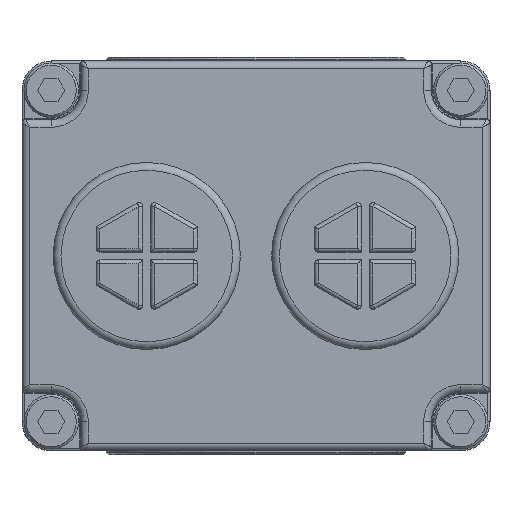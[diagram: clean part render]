
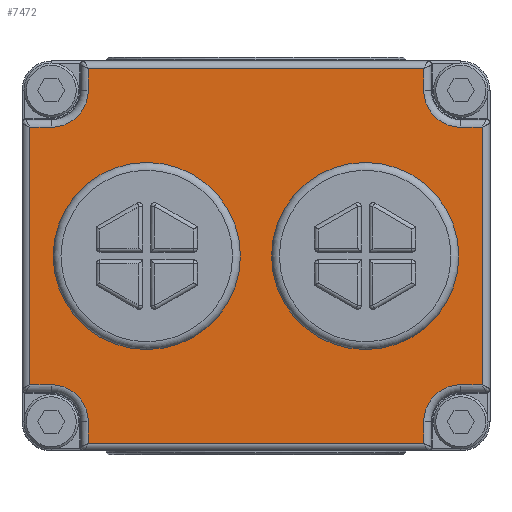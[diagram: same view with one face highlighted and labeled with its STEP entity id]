
A CAD part, front view. The second image highlights one B-rep face of the part: STEP entity #7472.
In plain terms, the highlighted planar face has unit normal (0, -1, 0).
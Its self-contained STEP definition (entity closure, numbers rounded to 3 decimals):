
#451=FACE_BOUND('',#1590,.T.);
#452=FACE_BOUND('',#1591,.T.);
#604=PLANE('',#8361);
#1055=FACE_OUTER_BOUND('',#1589,.T.);
#1589=EDGE_LOOP('',(#6588,#6589,#6590,#6591,#6592,#6593,#6594,#6595,#6596,
#6597,#6598,#6599,#6600,#6601,#6602,#6603));
#1590=EDGE_LOOP('',(#6604));
#1591=EDGE_LOOP('',(#6605));
#2041=LINE('',#15073,#2590);
#2042=LINE('',#15080,#2591);
#2063=LINE('',#15365,#2612);
#2065=LINE('',#15370,#2614);
#2066=LINE('',#15376,#2615);
#2089=LINE('',#15667,#2638);
#2090=LINE('',#15673,#2639);
#2091=LINE('',#15675,#2640);
#2114=LINE('',#15961,#2663);
#2115=LINE('',#15964,#2664);
#2116=LINE('',#15971,#2665);
#2117=LINE('',#15973,#2666);
#2590=VECTOR('',#10100,10.);
#2591=VECTOR('',#10111,10.);
#2612=VECTOR('',#10212,10.);
#2614=VECTOR('',#10218,10.);
#2615=VECTOR('',#10227,10.);
#2638=VECTOR('',#10336,10.);
#2639=VECTOR('',#10345,10.);
#2640=VECTOR('',#10348,10.);
#2663=VECTOR('',#10451,10.);
#2664=VECTOR('',#10454,10.);
#2665=VECTOR('',#10465,10.);
#2666=VECTOR('',#10468,10.);
#3030=CIRCLE('',#8164,7.);
#3060=CIRCLE('',#8218,4.75);
#3083=CIRCLE('',#8264,4.75);
#3106=CIRCLE('',#8311,4.75);
#3128=CIRCLE('',#8358,4.75);
#3129=CIRCLE('',#8362,7.);
#3591=VERTEX_POINT('',#14768);
#3626=VERTEX_POINT('',#15035);
#3627=VERTEX_POINT('',#15068);
#3628=VERTEX_POINT('',#15072);
#3629=VERTEX_POINT('',#15076);
#3657=VERTEX_POINT('',#15328);
#3658=VERTEX_POINT('',#15361);
#3659=VERTEX_POINT('',#15368);
#3660=VERTEX_POINT('',#15372);
#3688=VERTEX_POINT('',#15628);
#3689=VERTEX_POINT('',#15661);
#3690=VERTEX_POINT('',#15665);
#3691=VERTEX_POINT('',#15669);
#3718=VERTEX_POINT('',#15923);
#3719=VERTEX_POINT('',#15956);
#3720=VERTEX_POINT('',#15963);
#3721=VERTEX_POINT('',#15967);
#3722=VERTEX_POINT('',#15975);
#4480=EDGE_CURVE('',#3591,#3591,#3030,.T.);
#4537=EDGE_CURVE('',#3627,#3628,#2041,.T.);
#4540=EDGE_CURVE('',#3628,#3629,#3060,.T.);
#4541=EDGE_CURVE('',#3629,#3626,#2042,.T.);
#4590=EDGE_CURVE('',#3627,#3658,#2063,.T.);
#4593=EDGE_CURVE('',#3658,#3659,#2065,.T.);
#4595=EDGE_CURVE('',#3659,#3660,#3083,.T.);
#4596=EDGE_CURVE('',#3660,#3657,#2066,.T.);
#4648=EDGE_CURVE('',#3689,#3690,#2089,.T.);
#4650=EDGE_CURVE('',#3690,#3691,#3106,.T.);
#4651=EDGE_CURVE('',#3691,#3688,#2090,.T.);
#4652=EDGE_CURVE('',#3688,#3626,#2091,.T.);
#4702=EDGE_CURVE('',#3689,#3719,#2114,.T.);
#4703=EDGE_CURVE('',#3719,#3720,#2115,.T.);
#4706=EDGE_CURVE('',#3720,#3721,#3128,.T.);
#4707=EDGE_CURVE('',#3721,#3718,#2116,.T.);
#4708=EDGE_CURVE('',#3718,#3657,#2117,.T.);
#4709=EDGE_CURVE('',#3722,#3722,#3129,.T.);
#6588=ORIENTED_EDGE('',*,*,#4708,.F.);
#6589=ORIENTED_EDGE('',*,*,#4707,.F.);
#6590=ORIENTED_EDGE('',*,*,#4706,.F.);
#6591=ORIENTED_EDGE('',*,*,#4703,.F.);
#6592=ORIENTED_EDGE('',*,*,#4702,.F.);
#6593=ORIENTED_EDGE('',*,*,#4648,.T.);
#6594=ORIENTED_EDGE('',*,*,#4650,.T.);
#6595=ORIENTED_EDGE('',*,*,#4651,.T.);
#6596=ORIENTED_EDGE('',*,*,#4652,.T.);
#6597=ORIENTED_EDGE('',*,*,#4541,.F.);
#6598=ORIENTED_EDGE('',*,*,#4540,.F.);
#6599=ORIENTED_EDGE('',*,*,#4537,.F.);
#6600=ORIENTED_EDGE('',*,*,#4590,.T.);
#6601=ORIENTED_EDGE('',*,*,#4593,.T.);
#6602=ORIENTED_EDGE('',*,*,#4595,.T.);
#6603=ORIENTED_EDGE('',*,*,#4596,.T.);
#6604=ORIENTED_EDGE('',*,*,#4709,.F.);
#6605=ORIENTED_EDGE('',*,*,#4480,.F.);
#7472=ADVANCED_FACE('',(#1055,#451,#452),#604,.T.);
#8164=AXIS2_PLACEMENT_3D('',#14769,#9977,#9978);
#8218=AXIS2_PLACEMENT_3D('',#15078,#10107,#10108);
#8264=AXIS2_PLACEMENT_3D('',#15374,#10223,#10224);
#8311=AXIS2_PLACEMENT_3D('',#15671,#10341,#10342);
#8358=AXIS2_PLACEMENT_3D('',#15969,#10461,#10462);
#8361=AXIS2_PLACEMENT_3D('',#15974,#10469,#10470);
#8362=AXIS2_PLACEMENT_3D('',#15976,#10471,#10472);
#9977=DIRECTION('center_axis',(0.,-1.,0.));
#9978=DIRECTION('ref_axis',(0.,0.,1.));
#10100=DIRECTION('',(-1.,0.,0.));
#10107=DIRECTION('center_axis',(0.,-1.,0.));
#10108=DIRECTION('ref_axis',(-0.707,0.,0.707));
#10111=DIRECTION('',(0.,0.,-1.));
#10212=DIRECTION('',(0.,0.,1.));
#10218=DIRECTION('',(-1.,0.,0.));
#10223=DIRECTION('center_axis',(0.,1.,0.));
#10224=DIRECTION('ref_axis',(-0.707,0.,-0.707));
#10227=DIRECTION('',(0.,0.,1.));
#10336=DIRECTION('',(1.,0.,0.));
#10341=DIRECTION('center_axis',(0.,1.,0.));
#10342=DIRECTION('ref_axis',(0.707,0.,0.707));
#10345=DIRECTION('',(0.,0.,-1.));
#10348=DIRECTION('',(1.,0.,0.));
#10451=DIRECTION('',(0.,0.,1.));
#10454=DIRECTION('',(1.,0.,0.));
#10461=DIRECTION('center_axis',(0.,-1.,0.));
#10462=DIRECTION('ref_axis',(0.707,0.,-0.707));
#10465=DIRECTION('',(0.,0.,1.));
#10468=DIRECTION('',(1.,0.,0.));
#10469=DIRECTION('center_axis',(0.,-1.,0.));
#10470=DIRECTION('ref_axis',(1.,0.,0.));
#10471=DIRECTION('center_axis',(0.,-1.,0.));
#10472=DIRECTION('ref_axis',(0.,0.,1.));
#14768=CARTESIAN_POINT('',(-14.,-39.5,-7.));
#14769=CARTESIAN_POINT('Origin',(-14.,-39.5,0.));
#15035=CARTESIAN_POINT('',(21.5,-39.5,-24.));
#15068=CARTESIAN_POINT('',(29.,-39.5,-16.5));
#15072=CARTESIAN_POINT('',(26.25,-39.5,-16.5));
#15073=CARTESIAN_POINT('',(28.125,-39.5,-16.5));
#15076=CARTESIAN_POINT('',(21.5,-39.5,-21.25));
#15078=CARTESIAN_POINT('Origin',(26.25,-39.5,-21.25));
#15080=CARTESIAN_POINT('',(21.5,-39.5,-12.5));
#15328=CARTESIAN_POINT('',(21.5,-39.5,24.));
#15361=CARTESIAN_POINT('',(29.,-39.5,16.5));
#15365=CARTESIAN_POINT('',(29.,-39.5,0.));
#15368=CARTESIAN_POINT('',(26.25,-39.5,16.5));
#15370=CARTESIAN_POINT('',(28.125,-39.5,16.5));
#15372=CARTESIAN_POINT('',(21.5,-39.5,21.25));
#15374=CARTESIAN_POINT('Origin',(26.25,-39.5,21.25));
#15376=CARTESIAN_POINT('',(21.5,-39.5,12.5));
#15628=CARTESIAN_POINT('',(-21.5,-39.5,-24.));
#15661=CARTESIAN_POINT('',(-29.,-39.5,-16.5));
#15665=CARTESIAN_POINT('',(-26.25,-39.5,-16.5));
#15667=CARTESIAN_POINT('',(-28.125,-39.5,-16.5));
#15669=CARTESIAN_POINT('',(-21.5,-39.5,-21.25));
#15671=CARTESIAN_POINT('Origin',(-26.25,-39.5,-21.25));
#15673=CARTESIAN_POINT('',(-21.5,-39.5,-12.5));
#15675=CARTESIAN_POINT('',(-22.5,-39.5,-24.));
#15923=CARTESIAN_POINT('',(-21.5,-39.5,24.));
#15956=CARTESIAN_POINT('',(-29.,-39.5,16.5));
#15961=CARTESIAN_POINT('',(-29.,-39.5,0.));
#15963=CARTESIAN_POINT('',(-26.25,-39.5,16.5));
#15964=CARTESIAN_POINT('',(-28.125,-39.5,16.5));
#15967=CARTESIAN_POINT('',(-21.5,-39.5,21.25));
#15969=CARTESIAN_POINT('Origin',(-26.25,-39.5,21.25));
#15971=CARTESIAN_POINT('',(-21.5,-39.5,12.5));
#15973=CARTESIAN_POINT('',(-22.5,-39.5,24.));
#15974=CARTESIAN_POINT('Origin',(-30.,-39.5,0.));
#15975=CARTESIAN_POINT('',(14.,-39.5,-7.));
#15976=CARTESIAN_POINT('Origin',(14.,-39.5,0.));
